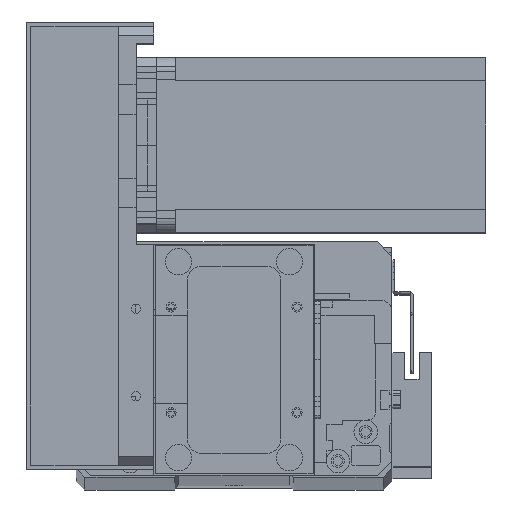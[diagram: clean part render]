
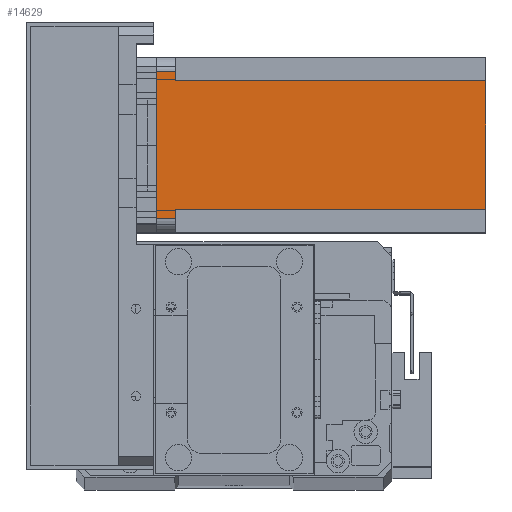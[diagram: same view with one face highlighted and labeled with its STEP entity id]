
A CAD part, top view. The second image highlights one B-rep face of the part: STEP entity #14629.
In plain terms, the highlighted planar face has unit normal (0, 0, 1) as drawn and (0, -1, 0) by its records, which use the part's own axes.
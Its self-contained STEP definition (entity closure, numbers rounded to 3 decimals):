
#831 = CARTESIAN_POINT ( 'NONE',  ( 5., 0., 0. ) ) ;
#1522 = CARTESIAN_POINT ( 'NONE',  ( 8., 0., -6.5 ) ) ;
#2691 = LINE ( 'NONE', #29398, #10556 ) ;
#3157 = CARTESIAN_POINT ( 'NONE',  ( 55., 0., -112.5 ) ) ;
#3981 = LINE ( 'NONE', #30227, #17258 ) ;
#3990 = EDGE_CURVE ( 'NONE', #22412, #14153, #11134, .T. ) ;
#4294 = CARTESIAN_POINT ( 'NONE',  ( 8., 0., -6.5 ) ) ;
#4702 = CARTESIAN_POINT ( 'NONE',  ( 52., 0., -112.5 ) ) ;
#5324 = PLANE ( 'NONE',  #12605 ) ;
#5820 = CARTESIAN_POINT ( 'NONE',  ( 55., 0., -6.5 ) ) ;
#6828 = EDGE_LOOP ( 'NONE', ( #28190, #7792, #14638, #10365, #22941, #24292, #21667, #10891 ) ) ;
#6963 = DIRECTION ( 'NONE',  ( 1., 0., 0. ) ) ;
#7792 = ORIENTED_EDGE ( 'NONE', *, *, #3990, .T. ) ;
#7981 = CARTESIAN_POINT ( 'NONE',  ( 0., 0., -112.5 ) ) ;
#9651 = DIRECTION ( 'NONE',  ( 0., 0., 1. ) ) ;
#10259 = LINE ( 'NONE', #33057, #30333 ) ;
#10301 = EDGE_CURVE ( 'NONE', #30636, #15165, #10259, .T. ) ;
#10365 = ORIENTED_EDGE ( 'NONE', *, *, #22596, .T. ) ;
#10556 = VECTOR ( 'NONE', #16438, 1000. ) ;
#10891 = ORIENTED_EDGE ( 'NONE', *, *, #26704, .F. ) ;
#11134 = LINE ( 'NONE', #3157, #24307 ) ;
#11469 = EDGE_CURVE ( 'NONE', #30636, #31842, #27047, .T. ) ;
#11493 = CARTESIAN_POINT ( 'NONE',  ( 52., 0., -6.5 ) ) ;
#12232 = FACE_OUTER_BOUND ( 'NONE', #6828, .T. ) ;
#12365 = LINE ( 'NONE', #25463, #32367 ) ;
#12605 = AXIS2_PLACEMENT_3D ( 'NONE', #7981, #28952, #13297 ) ;
#12613 = EDGE_CURVE ( 'NONE', #20124, #22412, #12365, .T. ) ;
#13297 = DIRECTION ( 'NONE',  ( 0., 0., -1. ) ) ;
#14153 = VERTEX_POINT ( 'NONE', #27077 ) ;
#14629 = ADVANCED_FACE ( 'NONE', ( #12232 ), #5324, .T. ) ;
#14638 = ORIENTED_EDGE ( 'NONE', *, *, #14699, .F. ) ;
#14699 = EDGE_CURVE ( 'NONE', #29887, #14153, #2691, .T. ) ;
#14809 = CARTESIAN_POINT ( 'NONE',  ( 0., 0., -112.5 ) ) ;
#15165 = VERTEX_POINT ( 'NONE', #1522 ) ;
#15815 = EDGE_CURVE ( 'NONE', #15165, #25000, #32552, .T. ) ;
#16438 = DIRECTION ( 'NONE',  ( 1., 0., 0. ) ) ;
#17258 = VECTOR ( 'NONE', #32795, 1000. ) ;
#17397 = CARTESIAN_POINT ( 'NONE',  ( 8., 0., -112.5 ) ) ;
#17484 = CARTESIAN_POINT ( 'NONE',  ( 52., 0., -112.5 ) ) ;
#20124 = VERTEX_POINT ( 'NONE', #11493 ) ;
#20141 = VECTOR ( 'NONE', #6963, 1000. ) ;
#21667 = ORIENTED_EDGE ( 'NONE', *, *, #11469, .T. ) ;
#22412 = VERTEX_POINT ( 'NONE', #5820 ) ;
#22596 = EDGE_CURVE ( 'NONE', #29887, #25000, #3981, .T. ) ;
#22941 = ORIENTED_EDGE ( 'NONE', *, *, #15815, .F. ) ;
#23167 = DIRECTION ( 'NONE',  ( 0., 0., -1. ) ) ;
#23729 = DIRECTION ( 'NONE',  ( 0., 0., 1. ) ) ;
#24292 = ORIENTED_EDGE ( 'NONE', *, *, #10301, .F. ) ;
#24307 = VECTOR ( 'NONE', #23729, 1000. ) ;
#24891 = VECTOR ( 'NONE', #25359, 1000. ) ;
#25000 = VERTEX_POINT ( 'NONE', #31027 ) ;
#25359 = DIRECTION ( 'NONE',  ( -1., 0., 0. ) ) ;
#25463 = CARTESIAN_POINT ( 'NONE',  ( 52., 0., -6.5 ) ) ;
#26704 = EDGE_CURVE ( 'NONE', #20124, #31842, #28469, .T. ) ;
#27047 = LINE ( 'NONE', #14809, #20141 ) ;
#27077 = CARTESIAN_POINT ( 'NONE',  ( 55., 0., 0. ) ) ;
#28190 = ORIENTED_EDGE ( 'NONE', *, *, #12613, .T. ) ;
#28469 = LINE ( 'NONE', #4702, #29249 ) ;
#28952 = DIRECTION ( 'NONE',  ( 0., -1., 0. ) ) ;
#29249 = VECTOR ( 'NONE', #23167, 1000. ) ;
#29398 = CARTESIAN_POINT ( 'NONE',  ( 0., 0., 0. ) ) ;
#29887 = VERTEX_POINT ( 'NONE', #831 ) ;
#30227 = CARTESIAN_POINT ( 'NONE',  ( 5., 0., -112.5 ) ) ;
#30333 = VECTOR ( 'NONE', #9651, 1000. ) ;
#30636 = VERTEX_POINT ( 'NONE', #17397 ) ;
#30643 = DIRECTION ( 'NONE',  ( 1., 0., 0. ) ) ;
#31027 = CARTESIAN_POINT ( 'NONE',  ( 5., 0., -6.5 ) ) ;
#31842 = VERTEX_POINT ( 'NONE', #17484 ) ;
#32367 = VECTOR ( 'NONE', #30643, 1000. ) ;
#32552 = LINE ( 'NONE', #4294, #24891 ) ;
#32795 = DIRECTION ( 'NONE',  ( 0., 0., -1. ) ) ;
#33057 = CARTESIAN_POINT ( 'NONE',  ( 8., 0., -112.5 ) ) ;
